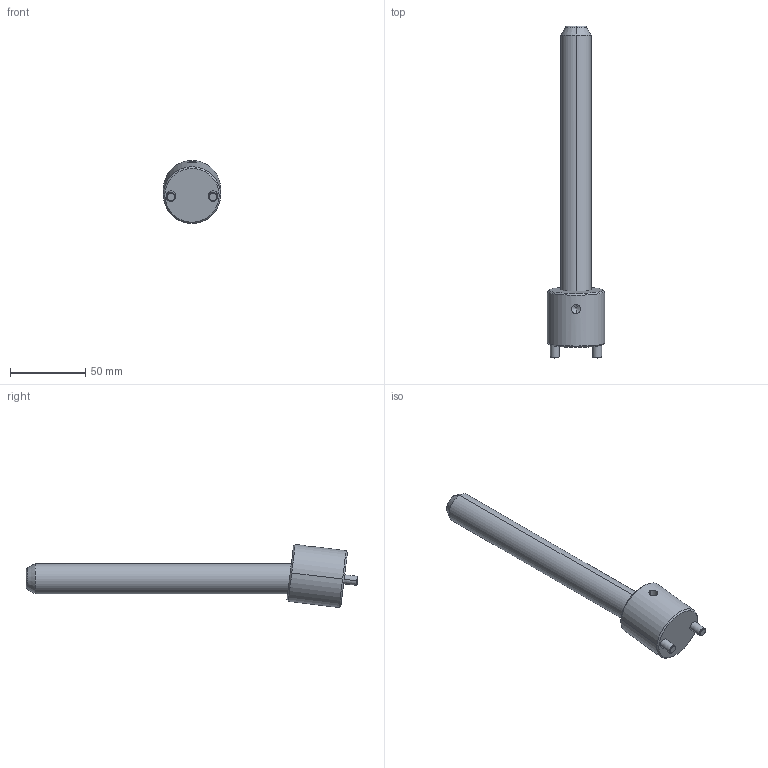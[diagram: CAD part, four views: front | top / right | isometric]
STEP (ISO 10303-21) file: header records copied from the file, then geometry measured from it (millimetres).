
FILE_DESCRIPTION(('CATIA V5 STEP Exchange'),'2;1');
FILE_NAME('C:\Users\Raffaele\Desktop\3D BOLEX\3D FILES CF BOLEX\19-INCLINED ASSEMBLY REF_CI\CI0720175.stp','2019-06-24T07:09:29+00:00',('none'),('none'),'CATIA Version 5 Release 20 GA (IN-10)','CATIA V5 STEP AP203','none');
FILE_SCHEMA(('CONFIG_CONTROL_DESIGN'));
Length unit declared in the file: millimetre
Products named in the file (1): CI0720175
Assembly tree (2 placements, depth 2):
  CI0720175
    #58
    #572
Bounding box: 38 x 220.46 x 41.86 mm (x, y, z)
Volume: 95057.5 mm3; surface area: 22179 mm2
Topology: 2 solids, 2 shells, 39 faces, 82 edges, 47 vertices
Faces by surface type: cone 14, cylinder 14, plane 7, torus 4
Entity records: 1506 total; most frequent: CARTESIAN_POINT 649, ORIENTED_EDGE 160, DIRECTION 144, EDGE_CURVE 80, AXIS2_PLACEMENT_3D 71, VERTEX_POINT 47, EDGE_LOOP 43, ADVANCED_FACE 39
